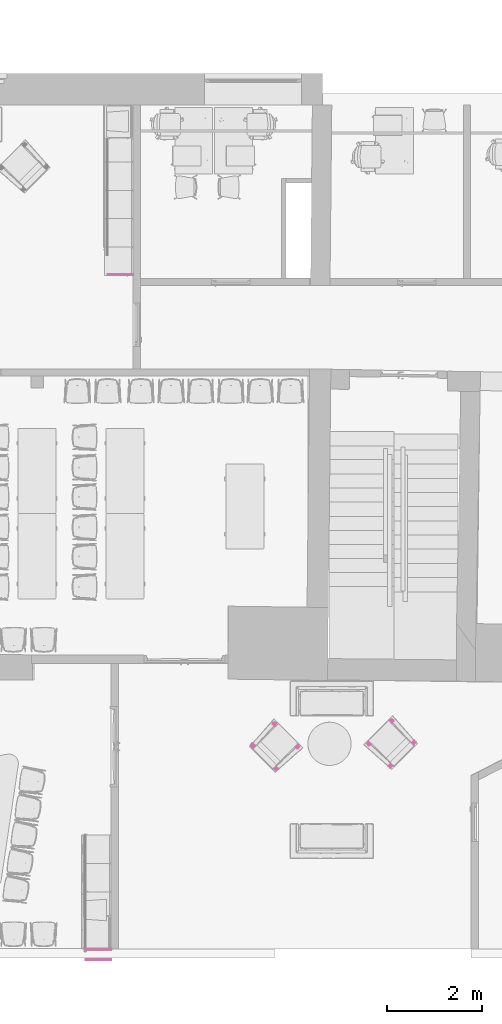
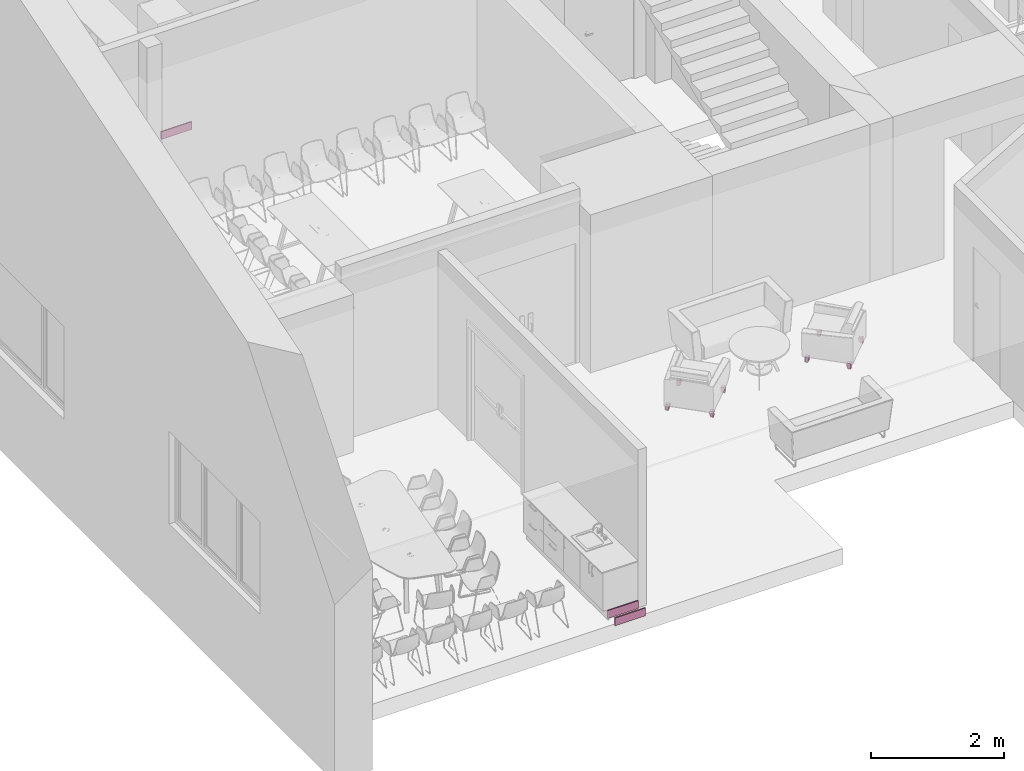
# One storey, part 15 of 19: 8 furnishings.
"""IFC2X3 building model written with IfcOpenShell, lengths in millimetres."""

from ifc_helpers import new_model, entity, si_unit, converted_unit, derived_unit, direction, frame, origin, origin_2d_with_axis, place, context, subcontext, project, spatial, rectangle, extrude, faceted_brep, source, transform, mapped, material, type_object, type_shapes, element, save


model = new_model("IFC2X3")

# Units and contexts
model_context = context("Model", 3, precision=0.01, world=origin(), true_north=direction((6.12303176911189e-17, 1.0)))
context_of_model = context(None, 3, precision=0.01, world=origin(), true_north=direction((6.12303176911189e-17, 1.0)))
body_context = subcontext(model_context, "Body", "Model", "MODEL_VIEW")
ifc_project = project(units=[si_unit("LENGTHUNIT", "METRE", prefix="MILLI"), si_unit("AREAUNIT", "SQUARE_METRE"), si_unit("VOLUMEUNIT", "CUBIC_METRE"), converted_unit("PLANEANGLEUNIT", "DEGREE", entity("IfcRatioMeasure", 0.0174532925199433), si_unit("PLANEANGLEUNIT", "RADIAN"), dimensions=[0, 0, 0, 0, 0, 0, 0]), si_unit("MASSUNIT", "GRAM", prefix="KILO"), derived_unit("MASSDENSITYUNIT", [(si_unit("MASSUNIT", "GRAM", prefix="KILO"), 1), (si_unit("LENGTHUNIT", "METRE"), -3)]), si_unit("TIMEUNIT", "SECOND"), si_unit("FREQUENCYUNIT", "HERTZ"), si_unit("THERMODYNAMICTEMPERATUREUNIT", "DEGREE_CELSIUS"), derived_unit("THERMALTRANSMITTANCEUNIT", [(si_unit("MASSUNIT", "GRAM", prefix="KILO"), 1), (si_unit("THERMODYNAMICTEMPERATUREUNIT", "KELVIN"), -1), (si_unit("TIMEUNIT", "SECOND"), -3)]), derived_unit("VOLUMETRICFLOWRATEUNIT", [(si_unit("LENGTHUNIT", "METRE"), 3), (si_unit("TIMEUNIT", "SECOND"), -1)]), si_unit("ELECTRICCURRENTUNIT", "AMPERE"), si_unit("ELECTRICVOLTAGEUNIT", "VOLT"), si_unit("POWERUNIT", "WATT"), si_unit("FORCEUNIT", "NEWTON", prefix="KILO"), si_unit("ILLUMINANCEUNIT", "LUX"), si_unit("LUMINOUSFLUXUNIT", "LUMEN"), si_unit("LUMINOUSINTENSITYUNIT", "CANDELA"), derived_unit("USERDEFINED", [(si_unit("MASSUNIT", "GRAM", prefix="KILO"), -1), (si_unit("LENGTHUNIT", "METRE"), -2), (si_unit("TIMEUNIT", "SECOND"), 3), (si_unit("LUMINOUSFLUXUNIT", "LUMEN"), 1)]), derived_unit("LINEARVELOCITYUNIT", [(si_unit("LENGTHUNIT", "METRE"), 1), (si_unit("TIMEUNIT", "SECOND"), -1)]), si_unit("PRESSUREUNIT", "PASCAL"), derived_unit("USERDEFINED", [(si_unit("LENGTHUNIT", "METRE"), -2), (si_unit("MASSUNIT", "GRAM", prefix="KILO"), 1), (si_unit("TIMEUNIT", "SECOND"), -2)])], contexts=[model_context, context_of_model])

# Site, building, storey, space
site_placement = place(None, frame((121442.264707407, 135347.995453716, -1800.0)))
site = spatial("IfcSite", under=ifc_project, at=site_placement, Name="Surface", CompositionType="ELEMENT")
building_placement = place(site_placement, origin())
building = spatial("IfcBuilding", under=site, at=building_placement, CompositionType="ELEMENT")
storey_placement = place(building_placement, frame((0.0, 0.0, 5125.0)))
storey = spatial("IfcBuildingStorey", under=building, at=storey_placement, Name="2 korrus", CompositionType="ELEMENT", Elevation=5125.00000000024)
space_1_placement = place(storey_placement, origin())
space_1 = spatial("IfcSpace", under=storey, at=space_1_placement, Name="222", CompositionType="ELEMENT", InteriorOrExteriorSpace="INTERNAL")

# Furnishings
ifc_material_1 = material(Name="Wood - Sauder® Manufacturing Co - Sample - Cherry - Stained")
furniture_type_1 = type_object("IfcFurnitureType", Name="Wood", AssemblyPlace="NOTDEFINED", material=ifc_material_1)
shared_shape_1 = source(origin(), body_context, "Body", "Brep", [
    faceted_brep([(-29.0, 294.031633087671, 94.4238602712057), (-29.0, 294.59999999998, 100.038208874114), (-29.0, 355.59999999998, 100.038208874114), (-29.0, 355.59999999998, 88.8526628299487), (-29.0, 293.653803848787, 88.8526628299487), (29.0, 355.59999999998, 0.0382088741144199), (29.0, 355.59999999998, 100.038208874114), (29.0, 294.599999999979, 100.038208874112), (29.0, 294.058936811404, 65.6374490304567), (29.0, 300.487423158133, 31.8383426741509), (29.0, 313.619693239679, 0.0382088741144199), (-10.8815902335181, 355.59999999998, 0.0382088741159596), (-23.9873919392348, 355.59999999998, 43.6199182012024), (-10.8815902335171, 313.61969323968, 0.0382088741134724), (-17.4978900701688, 305.072000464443, 18.5160905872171), (-22.829766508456, 298.712868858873, 38.2467497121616), (-26.6208712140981, 294.771729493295, 58.9393334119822), (-28.6812705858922, 293.431946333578, 80.1905676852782), (-28.8781200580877, 293.487384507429, 84.5216572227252)], [[[0, 1, 2, 3, 4]], [[5, 6, 7, 8, 9, 10]], [[3, 2, 6, 5, 11, 12]], [[2, 1, 7, 6]], [[10, 9, 13]], [[13, 9, 14]], [[9, 15, 14]], [[16, 15, 8]], [[15, 9, 8]], [[8, 7, 17]], [[17, 7, 18]], [[8, 17, 16]], [[18, 7, 4]], [[4, 7, 0]], [[7, 1, 0]], [[13, 11, 5, 10]], [[3, 16, 17]], [[16, 3, 12]], [[3, 18, 4]], [[18, 3, 17]], [[12, 11, 13]], [[12, 14, 15]], [[14, 12, 13]], [[12, 15, 16]]]),
    faceted_brep([(-29.0, -294.030021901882, 94.4047609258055), (-29.0, -293.653803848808, 88.8526628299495), (-29.0, -355.600000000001, 88.8526628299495), (-29.0, -355.600000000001, 100.0), (-29.0, -294.595491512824, 100.0), (29.0, -355.600000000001, 0.0), (29.0, -313.640250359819, 0.0), (29.0, -300.499358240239, 31.7983350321), (29.0, -294.062391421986, 65.5974861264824), (29.0, -294.595491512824, 100.0), (29.0, -355.600000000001, 100.0), (-23.9832739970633, -355.600000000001, 43.599736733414), (-10.86619288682, -355.600000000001, 0.0), (-28.6812705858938, -293.431946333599, 80.1905676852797), (-28.8781200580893, -293.48738450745, 84.5216572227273), (-22.8248155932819, -298.718451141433, 38.2249384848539), (-10.86619288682, -313.64025035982, 0.0), (-26.6192800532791, -294.773166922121, 58.9279817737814), (-17.4881781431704, -305.084088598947, 18.4852159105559)], [[[0, 1, 2, 3, 4]], [[5, 6, 7, 8, 9, 10]], [[3, 2, 11, 12, 5, 10]], [[4, 3, 10, 9]], [[9, 13, 14]], [[13, 9, 8]], [[9, 14, 1]], [[9, 0, 4]], [[0, 9, 1]], [[15, 8, 7]], [[16, 7, 6]], [[17, 8, 15]], [[15, 7, 18]], [[7, 16, 18]], [[8, 17, 13]], [[12, 16, 6, 5]], [[12, 11, 16]], [[11, 18, 16]], [[18, 11, 15]], [[11, 17, 15]], [[17, 2, 13]], [[2, 17, 11]], [[2, 14, 13]], [[14, 2, 1]]]),
])
type_shapes(furniture_type_1, [shared_shape_1])
for number, where, z_axis, x_axis, name in (
    (1, (-108278.611209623, -129057.648658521, 0.0382088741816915), (0.0, 0.0, 1.0), (-0.707106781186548, -0.707106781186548, 0.0), "Leg-Sauder_MFG_CO.-Rally-Wood:Wood"),
    (2, (-110724.874307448, -128636.013584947, 0.0382088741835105), (0.0, 0.0, 1.0), (-0.707106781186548, 0.707106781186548, 0.0), "Leg-Sauder_MFG_CO.-Rally-Wood:Wood"),
):
    element("IfcFurnishingElement", number, at=place(space_1_placement, frame(where, z_axis=z_axis, x_axis=x_axis)), inside=space_1, type_object=furniture_type_1, material=ifc_material_1, Name=name, ObjectType="Wood", context=body_context, shape_type="MappedRepresentation", body=[
        mapped(shared_shape_1, transform((0.0, 0.0, 0.0), scale=1.0)),
    ])
furniture_type_2 = type_object("IfcFurnitureType", Name="Wood", AssemblyPlace="NOTDEFINED", material=ifc_material_1)
shared_shape_2 = source(origin(), body_context, "Body", "Brep", [
    faceted_brep([(-29.0, -293.653803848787, 88.8526628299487), (-29.0, -355.59999999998, 88.8526628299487), (-29.0, -355.59999999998, 100.038208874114), (-29.0, -294.599999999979, 100.038208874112), (-29.0, -294.031633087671, 94.4238602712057), (29.0, -300.487423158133, 31.8383426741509), (29.0, -294.058936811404, 65.6374490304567), (29.0, -294.59999999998, 100.038208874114), (29.0, -355.59999999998, 100.038208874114), (29.0, -355.59999999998, 0.0382088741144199), (29.0, -313.61969323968, 0.0382088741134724), (-23.9873919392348, -355.59999999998, 43.6199182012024), (-10.8815902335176, -355.59999999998, 0.0382088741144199), (-10.8815902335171, -313.61969323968, 0.0382088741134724), (-17.4978900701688, -305.072000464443, 18.5160905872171), (-22.829766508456, -298.712868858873, 38.2467497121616), (-26.6208712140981, -294.771729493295, 58.9393334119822), (-28.6812705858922, -293.431946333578, 80.1905676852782), (-28.8781200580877, -293.487384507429, 84.5216572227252)], [[[0, 1, 2, 3, 4]], [[5, 6, 7, 8, 9, 10]], [[8, 2, 1, 11, 12, 9]], [[8, 7, 3, 2]], [[13, 5, 10]], [[14, 5, 13]], [[14, 15, 5]], [[6, 15, 16]], [[6, 5, 15]], [[17, 7, 6]], [[18, 7, 17]], [[16, 17, 6]], [[0, 7, 18]], [[4, 7, 0]], [[4, 3, 7]], [[9, 12, 13, 10]], [[17, 16, 1]], [[11, 1, 16]], [[0, 18, 1]], [[17, 1, 18]], [[13, 12, 11]], [[15, 14, 11]], [[13, 11, 14]], [[16, 15, 11]]]),
    faceted_brep([(-29.0, 355.600000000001, 88.8526628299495), (-29.0, 293.653803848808, 88.8526628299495), (-29.0, 294.030021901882, 94.4047609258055), (-29.0, 294.595491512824, 100.0), (-29.0, 355.600000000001, 100.0), (29.0, 355.600000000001, 0.0), (29.0, 355.600000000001, 100.0), (29.0, 294.595491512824, 100.0), (29.0, 294.062391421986, 65.5974861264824), (29.0, 300.499358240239, 31.7983350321), (29.0, 313.64025035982, 0.0), (-10.86619288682, 355.600000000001, 0.0), (-23.9832739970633, 355.600000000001, 43.599736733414), (-28.8781200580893, 293.48738450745, 84.5216572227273), (-28.6812705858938, 293.431946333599, 80.1905676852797), (-22.8248155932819, 298.718451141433, 38.2249384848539), (-10.86619288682, 313.64025035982, 0.0), (-26.6192800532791, 294.773166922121, 58.9279817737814), (-17.4881781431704, 305.084088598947, 18.4852159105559)], [[[0, 1, 2, 3, 4]], [[5, 6, 7, 8, 9, 10]], [[6, 5, 11, 12, 0, 4]], [[6, 4, 3, 7]], [[13, 14, 7]], [[8, 7, 14]], [[1, 13, 7]], [[3, 2, 7]], [[1, 7, 2]], [[9, 8, 15]], [[10, 9, 16]], [[15, 8, 17]], [[18, 9, 15]], [[18, 16, 9]], [[14, 17, 8]], [[10, 16, 11, 5]], [[16, 12, 11]], [[16, 18, 12]], [[15, 12, 18]], [[15, 17, 12]], [[14, 0, 17]], [[12, 17, 0]], [[14, 13, 0]], [[1, 0, 13]]]),
])
type_shapes(furniture_type_2, [shared_shape_2])
for number, where, z_axis, x_axis, name in (
    (3, (-107793.677379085, -128572.714827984, 0.0382088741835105), (0.0, 0.0, 1.0), (0.707106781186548, 0.707106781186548, 0.0), "Leg-Sauder_MFG_CO.-Rally-Wood:Wood"),
    (4, (-110239.940476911, -129120.947415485, 0.0382088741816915), (0.0, 0.0, 1.0), (0.707106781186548, -0.707106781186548, 0.0), "Leg-Sauder_MFG_CO.-Rally-Wood:Wood"),
):
    element("IfcFurnishingElement", number, at=place(space_1_placement, frame(where, z_axis=z_axis, x_axis=x_axis)), inside=space_1, type_object=furniture_type_2, material=ifc_material_1, Name=name, ObjectType="Wood", context=body_context, shape_type="MappedRepresentation", body=[
        mapped(shared_shape_2, transform((0.0, 0.0, 0.0), scale=1.0)),
    ])

# Space
space_2_placement = place(storey_placement, origin())
space_2 = spatial("IfcSpace", under=storey, at=space_2_placement, Name="225", CompositionType="ELEMENT", InteriorOrExteriorSpace="INTERNAL")

# Furnishings
ifc_material_2 = material(Name="White skirt")
furniture_type_3 = type_object("IfcFurnitureType", Name="skirt_01", AssemblyPlace="NOTDEFINED", material=ifc_material_2)
shared_shape_3 = source(origin(), body_context, "Body", "SweptSolid", [
    extrude(rectangle(XDim=20.0, YDim=533.0, at=origin_2d_with_axis()), frame((266.5, 10.0, 0.0), z_axis=(0.0, 0.0, 1.0), x_axis=(0.0, 1.0, 0.0)), (0.0, 0.0, 1.0), 144.5),
])
type_shapes(furniture_type_3, [shared_shape_3])
for number, where, z_axis, x_axis, name in (
    (5, (-113485.548066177, -118915.409667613, 0.250000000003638), (0.0, 0.0, 1.0), (-1.0, 0.0, 0.0), "skirt_01:skirt_01"),
    (6, (-113485.548066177, -118915.409667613, 0.0), (0.0, 0.0, 1.0), (-1.0, 0.0, 0.0), "skirt_01:skirt_01"),
):
    element("IfcFurnishingElement", number, at=place(space_2_placement, frame(where, z_axis=z_axis, x_axis=x_axis)), inside=space_2, type_object=furniture_type_3, material=ifc_material_2, Name=name, ObjectType="skirt_01", context=body_context, shape_type="MappedRepresentation", body=[
        mapped(shared_shape_3, transform((0.0, 0.0, 0.0), scale=1.0)),
    ])
for number, where, z_axis, x_axis, name in (
    (7, (-113948.710568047, -133367.995453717, 0.250000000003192), (0.0, 0.0, 1.0), (-1.0, 0.0, 0.0), "skirt_01:skirt_01"),
    (8, (-113948.710568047, -133147.995453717, 0.0), (0.0, 0.0, 1.0), (-1.0, 0.0, 0.0), "skirt_01:skirt_01"),
):
    element("IfcFurnishingElement", number, at=place(storey_placement, frame(where, z_axis=z_axis, x_axis=x_axis)), inside=storey, type_object=furniture_type_3, material=ifc_material_2, Name=name, ObjectType="skirt_01", context=body_context, shape_type="MappedRepresentation", body=[
        mapped(shared_shape_3, transform((0.0, 0.0, 0.0), scale=1.0)),
    ])

save(model, "model.ifc")
